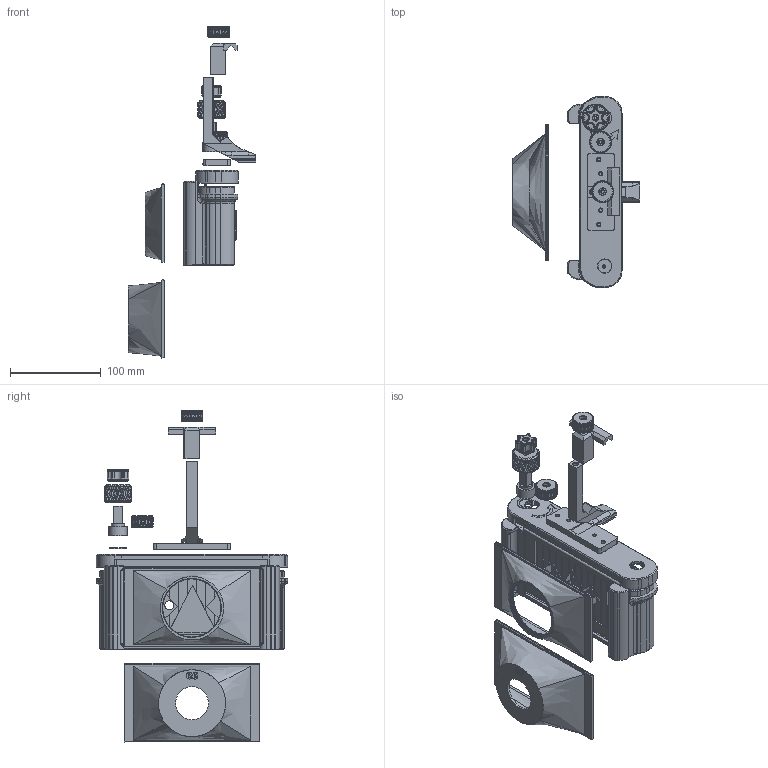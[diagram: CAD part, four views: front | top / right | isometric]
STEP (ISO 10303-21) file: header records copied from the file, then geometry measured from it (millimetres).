
FILE_DESCRIPTION(/* description */ (''),/* implementation_level */ '2;1');
FILE_NAME(/* name */ 'C:/Users/mcjor/3D Objects/6x17 Camera/6x12/no screw/6x12 v2 complete.stp',/* time_stamp */ '2023-02-06T15:39:07+01:00',/* author */ (''),/* organization */ (''),/* preprocessor_version */ 'ST-DEVELOPER v15.2',/* originating_system */ 'Autodesk Translator Framework v2.0.0.5431',/* authorisation */ '');
FILE_SCHEMA (('AUTOMOTIVE_DESIGN { 1 0 10303 214 3 1 1 }'));
Products named in the file (1): 6x12 v2
Bounding box: 140.65 x 211.05 x 366.55 mm (x, y, z)
Volume: 592851.3 mm3; surface area: 303457.8 mm2
Topology: 21 solids, 22 shells, 4371 faces, 10436 edges, 6105 vertices
Faces by surface type: plane 3174, cylinder 395, bspline 375, torus 273, cone 154
Full cylindrical faces by diameter (mm): 3.4 x1, 3.5 x2, 3.6 x5, 3.8 x2, 4 x2, 4.039 x4, 4.6 x3, 6.4 x1, 7.7 x2, 10 x1, 14.5 x1, 15 x2, 15.1 x1, 16 x1, 19.2 x1, 20 x1, 21.2 x2, 27.15 x2, 36.6 x1, 74 x1
Entity records: 133618 total; most frequent: CARTESIAN_POINT 37057, ORIENTED_EDGE 20662, DIRECTION 18704, EDGE_CURVE 10331, LINE 6750, VECTOR 6750, VERTEX_POINT 6096, AXIS2_PLACEMENT_3D 5977
